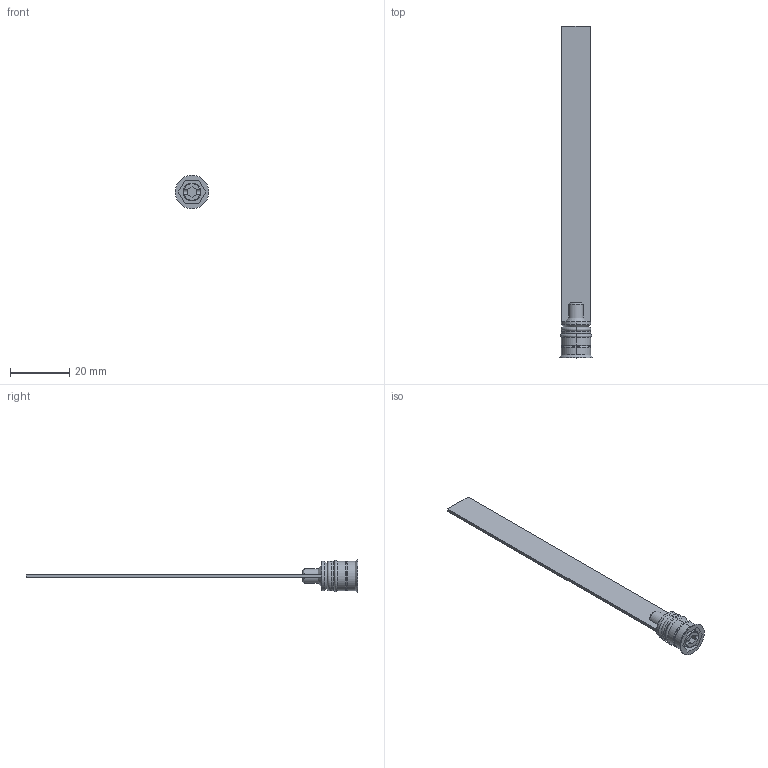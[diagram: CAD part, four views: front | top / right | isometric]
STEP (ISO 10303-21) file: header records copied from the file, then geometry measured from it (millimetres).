
FILE_DESCRIPTION (( 'STEP AP203' ), '1' );
FILE_NAME ('RL-10Fx100.STEP', '2015-12-02T09:53:40', ( 'Balzi' ), ( '' ), 'SwSTEP 2.0', 'SolidWorks 2015', '' );
FILE_SCHEMA (( 'CONFIG_CONTROL_DESIGN' ));
Length unit declared in the file: millimetre
Products named in the file (1): RL-10Fx100
Bounding box: 11.3 x 112.5 x 11.3 mm (x, y, z)
Volume: 1905.5 mm3; surface area: 3061.6 mm2
Topology: 1 solids, 1 shells, 72 faces, 171 edges, 105 vertices
Faces by surface type: plane 30, cylinder 17, cone 17, torus 8
Entity records: 2165 total; most frequent: CARTESIAN_POINT 399, DIRECTION 370, ORIENTED_EDGE 342, EDGE_CURVE 171, AXIS2_PLACEMENT_3D 140, VERTEX_POINT 105, LINE 90, VECTOR 90
